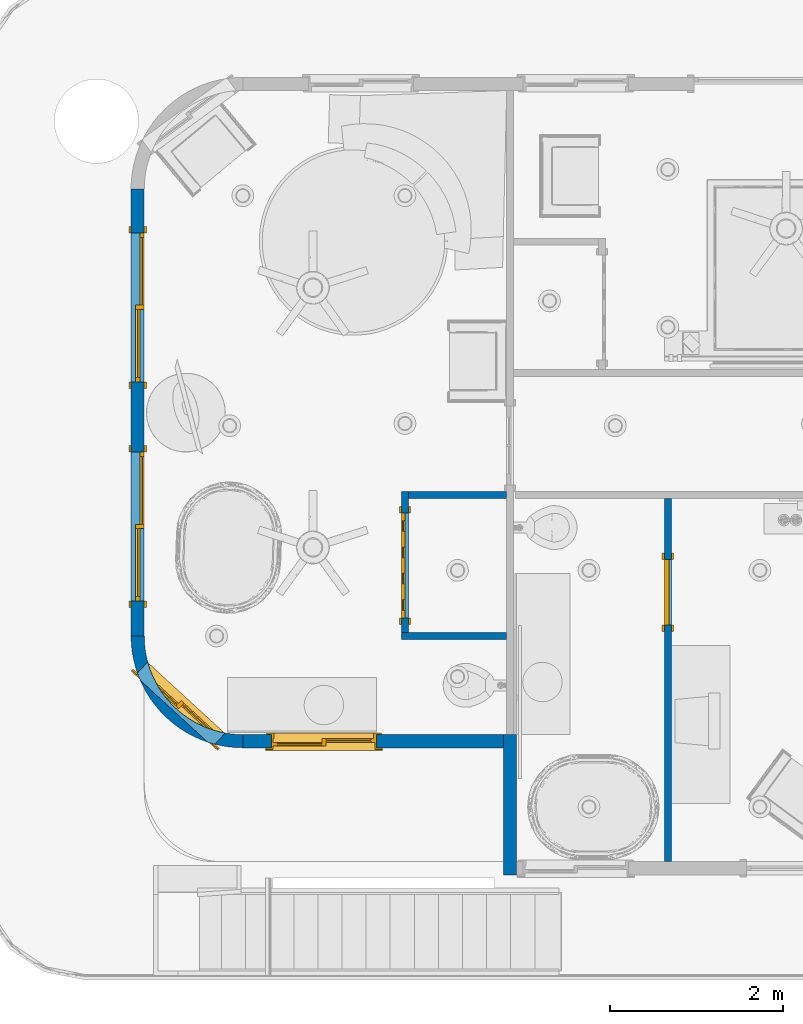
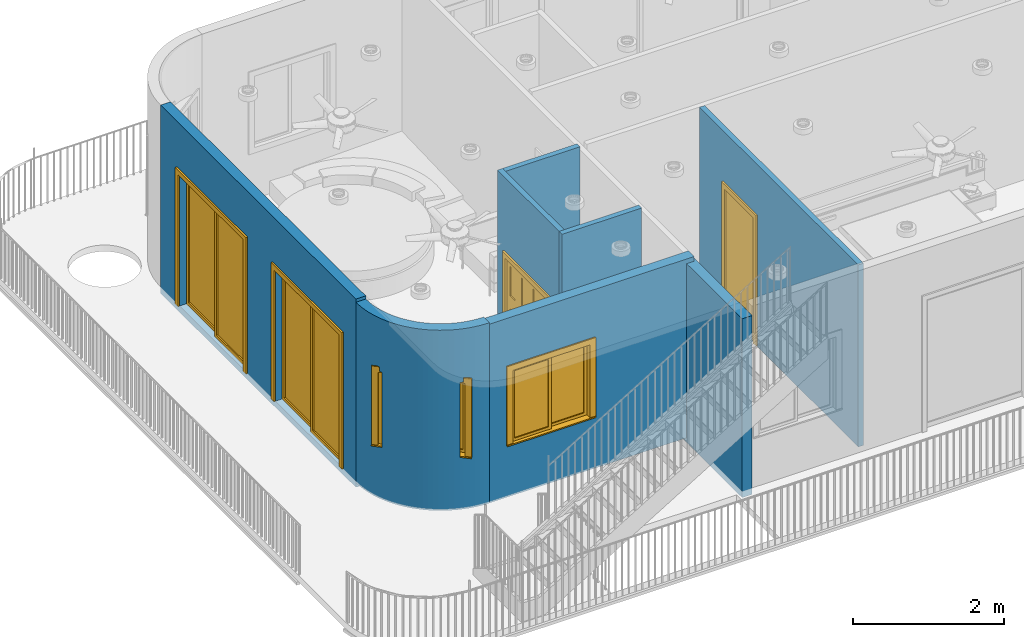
# One storey, part 2 of 28: 8 walls, 4 doors, 2 windows, 6 openings.
"""IFC2X3 building model written with IfcOpenShell, lengths in feet."""

from ifc_helpers import new_model, entity, si_unit, converted_unit, derived_unit, direction, frame, frame_2d, origin, origin_2d_with_axis, place, context, subcontext, project, spatial, polyline, circle_curve, parameter, trimmed, segment, composite_curve, rectangle, outline, extrude, source, transform, mapped, material, material_list, layer, layer_set, layer_usage, type_object, type_shapes, element, fill, save


model = new_model("IFC2X3")

# Units and contexts
model_context = context("Model", 3, precision=0.0001, world=origin(), true_north=direction((6.12303176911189e-17, 1.0)))
body_context = subcontext(model_context, "Body", "Model", "MODEL_VIEW")
ifc_project = project(units=[converted_unit("LENGTHUNIT", "FOOT", entity("IfcRatioMeasure", 0.3048), si_unit("LENGTHUNIT", "METRE"), dimensions=[1, 0, 0, 0, 0, 0, 0]), converted_unit("AREAUNIT", "SQUARE FOOT", entity("IfcRatioMeasure", 0.09290304), si_unit("AREAUNIT", "SQUARE_METRE"), dimensions=[2, 0, 0, 0, 0, 0, 0]), converted_unit("VOLUMEUNIT", "CUBIC FOOT", entity("IfcRatioMeasure", 0.028316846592), si_unit("VOLUMEUNIT", "CUBIC_METRE"), dimensions=[3, 0, 0, 0, 0, 0, 0]), converted_unit("PLANEANGLEUNIT", "DEGREE", entity("IfcRatioMeasure", 0.0174532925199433), si_unit("PLANEANGLEUNIT", "RADIAN"), dimensions=[0, 0, 0, 0, 0, 0, 0]), si_unit("MASSUNIT", "GRAM", prefix="KILO"), derived_unit("MASSDENSITYUNIT", [(si_unit("MASSUNIT", "GRAM", prefix="KILO"), 1), (si_unit("LENGTHUNIT", "METRE"), -3)]), si_unit("TIMEUNIT", "SECOND"), si_unit("FREQUENCYUNIT", "HERTZ"), si_unit("THERMODYNAMICTEMPERATUREUNIT", "DEGREE_CELSIUS"), derived_unit("THERMALTRANSMITTANCEUNIT", [(si_unit("MASSUNIT", "GRAM", prefix="KILO"), 1), (si_unit("THERMODYNAMICTEMPERATUREUNIT", "KELVIN"), -1), (si_unit("TIMEUNIT", "SECOND"), -3)]), derived_unit("VOLUMETRICFLOWRATEUNIT", [(si_unit("LENGTHUNIT", "METRE"), 3), (si_unit("TIMEUNIT", "SECOND"), -1)]), si_unit("ELECTRICCURRENTUNIT", "AMPERE"), si_unit("ELECTRICVOLTAGEUNIT", "VOLT"), si_unit("POWERUNIT", "WATT"), si_unit("FORCEUNIT", "NEWTON"), si_unit("ILLUMINANCEUNIT", "LUX"), si_unit("LUMINOUSFLUXUNIT", "LUMEN"), si_unit("LUMINOUSINTENSITYUNIT", "CANDELA"), derived_unit("USERDEFINED", [(si_unit("MASSUNIT", "GRAM", prefix="KILO"), -1), (si_unit("LENGTHUNIT", "METRE"), -2), (si_unit("TIMEUNIT", "SECOND"), 3), (si_unit("LUMINOUSFLUXUNIT", "LUMEN"), 1)]), derived_unit("LINEARVELOCITYUNIT", [(si_unit("LENGTHUNIT", "METRE"), 1), (si_unit("TIMEUNIT", "SECOND"), -1)]), si_unit("PRESSUREUNIT", "PASCAL"), derived_unit("USERDEFINED", [(si_unit("LENGTHUNIT", "METRE"), -2), (si_unit("MASSUNIT", "GRAM", prefix="KILO"), 1), (si_unit("TIMEUNIT", "SECOND"), -2)])], contexts=[model_context])

# Site, building, storey
site_placement = place(None, origin())
site = spatial("IfcSite", under=ifc_project, at=site_placement, Name="表面", CompositionType="ELEMENT")
building_placement = place(site_placement, origin())
building = spatial("IfcBuilding", under=site, at=building_placement, CompositionType="ELEMENT")
storey_placement = place(building_placement, frame((0.0, 0.0, 10.0)))
storey = spatial("IfcBuildingStorey", under=building, at=storey_placement, Name="Level 2", CompositionType="ELEMENT", Elevation=9.99999999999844)

# Wall
ifc_material_1 = material(Name="Paint")
ifc_layer_1 = layer(ifc_material_1, 0.333333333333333)
ifc_material_2 = material(Name="Paints and Coatings")
ifc_layer_2 = layer(ifc_material_2, 0.166666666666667)
ifc_layer_set_1 = layer_set([ifc_layer_1, ifc_layer_2], Name="基本墙:Generic - 4\" Brick")
ifc_layer_usage_1 = layer_usage(ifc_layer_set_1, "AXIS2", "NEGATIVE", 0.25)
wall_type_1 = type_object("IfcWallType", Name="基本墙:Generic - 4\" Brick", PredefinedType="STANDARD", material=ifc_layer_set_1)
wall_1_placement = place(storey_placement, frame((-19.8682464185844, -8.06760630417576, 0.0), z_axis=(0.0, 0.0, 1.0), x_axis=(0.0, -1.0, 0.0)))
element("IfcWallStandardCase", 1, at=wall_1_placement, inside=storey, type_object=wall_type_1, material=ifc_layer_usage_1, Name="基本墙:Generic - 4\" Brick", ObjectType="基本墙:Generic - 4\" Brick:257", context=body_context, shape_type="SweptSolid", body=[
    extrude(rectangle(XDim=5.33333333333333, YDim=0.5, at=frame_2d((2.66666666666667, 3.60822483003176e-16), x_axis=(-1.0, 0.0))), origin(), (0.0, 0.0, 1.0), 9.5),
])

# Wall, opening, window
ifc_layer_usage_2 = layer_usage(ifc_layer_set_1, "AXIS2", "NEGATIVE", 0.25)
wall_2_placement = place(storey_placement, frame((-30.0349130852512, -8.31760630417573, 0.250000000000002)))
wall_2 = element("IfcWallStandardCase", 2, at=wall_2_placement, inside=storey, type_object=wall_type_1, material=ifc_layer_usage_2, Name="基本墙:Generic - 4\" Brick", ObjectType="基本墙:Generic - 4\" Brick:257", context=body_context, shape_type="SweptSolid", body=[
    extrude(rectangle(XDim=10.2968750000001, YDim=0.5, at=frame_2d((5.14843750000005, -9.71445146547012e-17), x_axis=(-1.0, 0.0))), origin(), (0.0, 0.0, 1.0), 9.5),
])
opening_1_placement = place(wall_2_placement, frame((5.08333333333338, 0.249999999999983, 2.74999999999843)))
opening_1 = element("IfcOpeningElement", 3, at=opening_1_placement, cuts=wall_2, Name="Slider with Trim:48\" x 48\":1", ObjectType="Opening", context=body_context, shape_type="SweptSolid", body=[
    extrude(rectangle(XDim=3.99999999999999, YDim=3.99999999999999, at=frame_2d((2.0, 2.0), x_axis=(-1.0, 0.0))), frame((0.0, 0.0, 0.0), z_axis=(0.0, -1.0, 0.0), x_axis=(0.0, 0.0, 1.0)), (0.0, 0.0, 1.0), 0.5),
])
ifc_material_3 = material(Name="Glass")
ifc_material_4 = material(Name="Sash")
ifc_material_5 = material(Name="Trim")
ifc_material_list_1 = material_list([ifc_material_3, ifc_material_4, ifc_material_5])
ifc_material_list_2 = material_list([ifc_material_3, ifc_material_4, ifc_material_5])
window_style = type_object("IfcWindowStyle", Name="48\" x 48\"", ConstructionType="NOTDEFINED", OperationType="NOTDEFINED", ParameterTakesPrecedence=False, Sizeable=False, material=ifc_material_list_2)
shared_shape_1 = source(origin(), body_context, "Body", "SweptSolid", [
    extrude(rectangle(XDim=0.0416666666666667, YDim=1.71875000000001, at=origin_2d_with_axis()), frame((1.06770833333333, 0.21875, 0.208333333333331), z_axis=(0.0, 0.0, 1.0), x_axis=(0.0, -1.0, 0.0)), (0.0, 0.0, 1.0), 3.58333333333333),
    extrude(outline(polyline([(-1.00520833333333, -1.9375), (1.00520833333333, -1.9375), (1.00520833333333, 1.9375), (-1.00520833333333, 1.9375), (-1.00520833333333, -1.9375)]), holes=[polyline([(-0.859374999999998, -1.79166666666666), (-0.859374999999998, 1.79166666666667), (0.859374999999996, 1.79166666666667), (0.859374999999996, -1.79166666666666), (-0.859374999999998, -1.79166666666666)])]), frame((1.06770833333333, 0.145833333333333, 2.0), z_axis=(0.0, 1.0, 0.0), x_axis=(1.0, 0.0, 0.0)), (0.0, 0.0, 1.0), 0.145833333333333),
    extrude(rectangle(XDim=0.104166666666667, YDim=4.45833333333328, at=frame_2d((-2.77555756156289e-17, 0.0), x_axis=(1.0, 0.0))), frame((2.0, 0.552083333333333, 0.0), z_axis=(0.0, 0.0, 1.0), x_axis=(0.0, -1.0, 0.0)), (0.0, 0.0, 1.0), 0.0624999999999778),
    extrude(outline(polyline([(-1.86458333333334, 1.9375), (2.01041666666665, 1.9375), (2.01041666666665, 2.22916666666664), (-2.15624999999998, 2.22916666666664), (-2.15624999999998, -2.22916666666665), (2.01041666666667, -2.22916666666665), (2.01041666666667, -1.93749999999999), (-1.86458333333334, -1.93749999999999), (-1.86458333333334, 1.9375)])), frame((2.0, 0.5, 2.07291666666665), z_axis=(0.0, 1.0, 0.0), x_axis=(0.0, 0.0, -1.0)), (0.0, 0.0, 1.0), 0.0625),
    extrude(outline(polyline([(-2.18749999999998, -2.18749999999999), (2.18749999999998, -2.18749999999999), (2.18749999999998, 2.18749999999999), (-2.18749999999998, 2.18749999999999), (-2.18749999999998, -2.18749999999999)]), holes=[polyline([(-1.89583333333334, -1.89583333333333), (-1.89583333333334, 1.89583333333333), (1.89583333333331, 1.89583333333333), (1.89583333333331, -1.89583333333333), (-1.89583333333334, -1.89583333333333)])]), frame((2.0, -0.0625, 2.0), z_axis=(0.0, 1.0, 0.0), x_axis=(0.0, 0.0, -1.0)), (0.0, 0.0, 1.0), 0.0625),
    extrude(rectangle(XDim=0.0416666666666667, YDim=1.71874999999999, at=frame_2d((1.38777878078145e-17, 0.0), x_axis=(1.0, 0.0))), frame((2.93229166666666, 0.364583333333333, 0.208333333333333), z_axis=(0.0, 0.0, 1.0), x_axis=(0.0, 1.0, 0.0)), (0.0, 0.0, 1.0), 3.58333333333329),
    extrude(outline(polyline([(-1.00520833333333, -1.93749999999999), (1.00520833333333, -1.93749999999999), (1.00520833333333, 1.93749999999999), (-1.00520833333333, 1.93749999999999), (-1.00520833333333, -1.93749999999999)]), holes=[polyline([(-0.859374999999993, -1.79166666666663), (-0.859374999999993, 1.79166666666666), (0.859374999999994, 1.79166666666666), (0.859374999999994, -1.79166666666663), (-0.859374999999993, -1.79166666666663)])]), frame((2.93229166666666, 0.291666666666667, 2.0), z_axis=(0.0, 1.0, 0.0), x_axis=(1.0, 0.0, 0.0)), (0.0, 0.0, 1.0), 0.145833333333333),
    extrude(outline(polyline([(-2.0, -2.0), (2.0, -2.0), (2.0, 2.0), (-2.0, 2.0), (-2.0, -2.0)]), holes=[polyline([(-1.89583333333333, -1.89583333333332), (-1.89583333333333, 1.89583333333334), (1.89583333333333, 1.89583333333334), (1.89583333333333, -1.89583333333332), (-1.89583333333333, -1.89583333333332)])]), frame((2.0, 0.0, 2.0), z_axis=(0.0, 1.0, 0.0), x_axis=(1.0, 0.0, 0.0)), (0.0, 0.0, 1.0), 0.145833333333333),
    extrude(outline(polyline([(-2.0, -2.0), (2.0, -2.0), (2.0, 2.0), (-2.0, 2.0), (-2.0, -2.0)]), holes=[polyline([(-1.9375, -1.93749999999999), (-1.9375, 1.9375), (1.9375, 1.9375), (1.9375, -1.93749999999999), (-1.9375, -1.93749999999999)])]), frame((2.0, 0.145833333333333, 2.0), z_axis=(0.0, 1.0, 0.0), x_axis=(0.0, 0.0, -1.0)), (0.0, 0.0, 1.0), 0.354166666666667),
])
type_shapes(window_style, [shared_shape_1])
window_1_placement = place(opening_1_placement, frame((0.0, 0.0, 0.0), z_axis=(0.0, 0.0, 1.0), x_axis=(-1.0, 0.0, 0.0)))
window_1 = element("IfcWindow", 4, at=window_1_placement, inside=storey, type_object=window_style, material=ifc_material_list_1, Name="Slider with Trim:48\" x 48\"", ObjectType="48\" x 48\"", OverallHeight=3.99999999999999, OverallWidth=3.99999999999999, context=body_context, shape_type="MappedRepresentation", body=[
    mapped(shared_shape_1, transform((0.0, 0.0, 0.0), scale=1.0)),
])
fill(opening_1, window_1)

# Wall, openings, doors
ifc_layer_usage_3 = layer_usage(ifc_layer_set_1, "AXIS2", "NEGATIVE", 0.25)
wall_3_placement = place(storey_placement, frame((-34.0349130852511, -4.31760630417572, 0.0), z_axis=(0.0, 0.0, 1.0), x_axis=(0.0, 1.0, 0.0)))
wall_3 = element("IfcWallStandardCase", 5, at=wall_3_placement, inside=storey, type_object=wall_type_1, material=ifc_layer_usage_3, Name="基本墙:Generic - 4\" Brick", ObjectType="基本墙:Generic - 4\" Brick:257", context=body_context, shape_type="SweptSolid", body=[
    extrude(rectangle(XDim=17.0, YDim=0.5, at=frame_2d((8.49999999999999, 2.77555756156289e-16), x_axis=(-1.0, 0.0))), origin(), (0.0, 0.0, 1.0), 9.99999999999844),
])
opening_2_placement = place(wall_3_placement, frame((15.3333333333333, 0.249999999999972, 0.333333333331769)))
opening_2 = element("IfcOpeningElement", 6, at=opening_2_placement, cuts=wall_3, Name="Sliding-2 panel:68\" x 84\":1", ObjectType="Opening", context=body_context, shape_type="SweptSolid", body=[
    extrude(rectangle(XDim=7.0, YDim=5.66666666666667, at=frame_2d((3.5, 2.83333333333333), x_axis=(-1.0, 0.0))), frame((0.0, 0.0, 0.0), z_axis=(0.0, -1.0, 0.0), x_axis=(0.0, 0.0, 1.0)), (0.0, 0.0, 1.0), 0.5),
])
opening_3_placement = place(wall_3_placement, frame((7.0, 0.249999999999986, 0.333333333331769)))
opening_3 = element("IfcOpeningElement", 7, at=opening_3_placement, cuts=wall_3, Name="Sliding-2 panel:68\" x 84\":1", ObjectType="Opening", context=body_context, shape_type="SweptSolid", body=[
    extrude(rectangle(XDim=7.0, YDim=5.66666666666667, at=frame_2d((3.5, 2.83333333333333), x_axis=(-1.0, 0.0))), frame((0.0, 0.0, 0.0), z_axis=(0.0, -1.0, 0.0), x_axis=(0.0, 0.0, 1.0)), (0.0, 0.0, 1.0), 0.5),
])
ifc_material_6 = material(Name="Door - Panel")
ifc_material_7 = material(Name="Door - Frame")
ifc_material_list_3 = material_list([ifc_material_3, ifc_material_6, ifc_material_7])
ifc_material_list_4 = material_list([ifc_material_3, ifc_material_6, ifc_material_7])
door_style_1 = type_object("IfcDoorStyle", Name="68\" x 84\"", ConstructionType="NOTDEFINED", OperationType="NOTDEFINED", ParameterTakesPrecedence=False, Sizeable=False, material=ifc_material_list_4)
shared_shape_2 = source(origin(), body_context, "Body", "SweptSolid", [
    extrude(rectangle(XDim=0.0208333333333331, YDim=2.5833333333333, at=origin_2d_with_axis()), frame((4.20833333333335, 0.250000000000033, 0.166666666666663), z_axis=(0.0, 0.0, 1.0), x_axis=(0.0, -1.0, 0.0)), (0.0, 0.0, 1.0), 6.66666666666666),
    extrude(outline(polyline([(-1.45833333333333, -3.5), (1.45833333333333, -3.5), (1.45833333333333, 3.5), (-1.45833333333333, 3.5), (-1.45833333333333, -3.5)]), holes=[polyline([(-1.29166666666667, -3.33333333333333), (-1.29166666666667, 3.33333333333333), (1.29166666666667, 3.33333333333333), (1.29166666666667, -3.33333333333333), (-1.29166666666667, -3.33333333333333)])]), frame((4.20833333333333, 0.16666666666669, 3.5), z_axis=(0.0, 1.0, 0.0), x_axis=(1.0, 0.0, 0.0)), (0.0, 0.0, 1.0), 0.166666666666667),
    extrude(rectangle(XDim=0.0208333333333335, YDim=2.58333333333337, at=frame_2d((5.55111512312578e-17, 0.0), x_axis=(1.0, 0.0))), frame((1.45833333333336, 0.416666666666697, 0.166666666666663), z_axis=(0.0, 0.0, 1.0), x_axis=(0.0, -1.0, 0.0)), (0.0, 0.0, 1.0), 6.66666666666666),
    extrude(outline(polyline([(-3.5, -1.45833333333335), (3.5, -1.45833333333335), (3.5, 1.45833333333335), (-3.5, 1.45833333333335), (-3.5, -1.45833333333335)]), holes=[polyline([(-3.33333333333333, -1.29166666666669), (-3.33333333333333, 1.29166666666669), (3.33333333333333, 1.29166666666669), (3.33333333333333, -1.29166666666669), (-3.33333333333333, -1.29166666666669)])]), frame((1.45833333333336, 0.333333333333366, 3.5), z_axis=(0.0, 1.0, 0.0), x_axis=(0.0, 0.0, -1.0)), (0.0, 0.0, 1.0), 0.166666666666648),
    extrude(outline(polyline([(-3.5625, -3.08333333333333), (3.6875, -3.08333333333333), (3.6875, 3.08333333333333), (-3.5625, 3.08333333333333), (-3.5625, 2.83333333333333), (3.4375, 2.83333333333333), (3.4375, -2.83333333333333), (-3.5625, -2.83333333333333), (-3.5625, -3.08333333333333)])), frame((2.83333333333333, -0.0833333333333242, 3.5625), z_axis=(0.0, 1.0, 0.0), x_axis=(0.0, 0.0, 1.0)), (0.0, 0.0, 1.0), 0.0833333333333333),
    extrude(outline(polyline([(-3.08333333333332, -3.56250000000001), (-2.83333333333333, -3.56250000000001), (-2.83333333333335, 3.43749999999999), (2.83333333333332, 3.43750000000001), (2.83333333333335, -3.56249999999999), (3.08333333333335, -3.56249999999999), (3.08333333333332, 3.68750000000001), (-3.08333333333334, 3.68749999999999), (-3.08333333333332, -3.56250000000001)])), frame((2.83333333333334, 0.500000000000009, 3.5625), z_axis=(0.0, 1.0, 0.0), x_axis=(-1.0, 0.0, 0.0)), (0.0, 0.0, 1.0), 0.0833333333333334),
])
type_shapes(door_style_1, [shared_shape_2])
door_1_placement = place(opening_3_placement, frame((0.0, 0.0, 0.0), z_axis=(0.0, 0.0, 1.0), x_axis=(-1.0, 0.0, 0.0)))
door_1 = element("IfcDoor", 8, at=door_1_placement, inside=storey, type_object=door_style_1, material=ifc_material_list_3, Name="Sliding-2 panel:68\" x 84\"", ObjectType="68\" x 84\"", OverallHeight=7.0, OverallWidth=5.66666666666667, context=body_context, shape_type="MappedRepresentation", body=[
    mapped(shared_shape_2, transform((0.0, 0.0, 0.0), scale=1.0)),
])
fill(opening_3, door_1)
ifc_material_list_5 = material_list([ifc_material_3, ifc_material_6, ifc_material_7])
door_2_placement = place(opening_2_placement, frame((0.0, 0.0, 0.0), z_axis=(0.0, 0.0, 1.0), x_axis=(-1.0, 0.0, 0.0)))
door_2 = element("IfcDoor", 9, at=door_2_placement, inside=storey, type_object=door_style_1, material=ifc_material_list_5, Name="Sliding-2 panel:68\" x 84\"", ObjectType="68\" x 84\"", OverallHeight=7.0, OverallWidth=5.66666666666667, context=body_context, shape_type="MappedRepresentation", body=[
    mapped(shared_shape_2, transform((0.0, 0.0, 0.0), scale=1.0)),
])
fill(opening_2, door_2)

# Wall, opening, window
ifc_layer_usage_4 = layer_usage(ifc_layer_set_1, "AXIS2", "NEGATIVE", 0.25)
wall_4_placement = place(storey_placement, frame((-34.0349130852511, -4.31760630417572, 0.250000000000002)))
wall_4 = element("IfcWallStandardCase", 10, at=wall_4_placement, inside=storey, type_object=wall_type_1, material=ifc_layer_usage_4, Name="基本墙:Generic - 4\" Brick", ObjectType="基本墙:Generic - 4\" Brick:257", context=body_context, shape_type="SweptSolid", body=[
    extrude(outline(composite_curve([segment(trimmed(circle_curve(frame_2d((4.0, 0.0), x_axis=(1.0, 0.0)), 3.75), [parameter(180.0)], [parameter(270.0)], True, "PARAMETER"), False, "CONTINUOUS"), segment(polyline([(0.25, 0.0), (-0.25, 0.0)]), True, "CONTINUOUS"), segment(trimmed(circle_curve(frame_2d((4.0, 0.0), x_axis=(1.0, 0.0)), 4.25), [parameter(180.0)], [parameter(270.0)], True, "PARAMETER"), True, "CONTINUOUS"), segment(polyline([(4.0, -4.25000000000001), (4.0, -3.75000000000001)]), True, "CONTINUOUS")], self_intersect=False)), origin(), (0.0, 0.0, 1.0), 9.58333333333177),
])
opening_4_placement = place(wall_4_placement, frame((5.98065322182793, -0.799695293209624, 2.74999999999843)))
opening_4 = element("IfcOpeningElement", 11, at=opening_4_placement, cuts=wall_4, Name="Slider with Trim:48\" x 48\":1", ObjectType="Opening", context=body_context, shape_type="SweptSolid", body=[
    extrude(rectangle(XDim=3.99999999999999, YDim=3.99999999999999, at=frame_2d((2.0, 2.0), x_axis=(-1.0, 0.0))), frame((0.0, 0.0, 0.0), z_axis=(-0.676138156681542, -0.736774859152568, 0.0), x_axis=(0.0, 0.0, 1.0)), (0.0, 0.0, 1.0), 4.62701648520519),
])
ifc_material_list_6 = material_list([ifc_material_3, ifc_material_4, ifc_material_5])
window_2_placement = place(opening_4_placement, frame((-2.7045525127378, -2.94709931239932, 0.0), z_axis=(0.0, 0.0, 1.0), x_axis=(-0.736774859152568, 0.676138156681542, 0.0)))
window_2 = element("IfcWindow", 12, at=window_2_placement, inside=storey, type_object=window_style, material=ifc_material_list_6, Name="Slider with Trim:48\" x 48\"", ObjectType="48\" x 48\"", OverallHeight=3.99999999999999, OverallWidth=4.0, context=body_context, shape_type="MappedRepresentation", body=[
    mapped(shared_shape_1, transform((0.0, 0.0, 0.0), scale=1.0)),
])
fill(opening_4, window_2)

# Wall
ifc_material_8 = material(Name="Gypsum Wall Board")
ifc_layer_3 = layer(ifc_material_8, 0.0416666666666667)
ifc_layer_4 = layer(ifc_material_8, 0.0208333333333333)
ifc_material_9 = material(Name="Metal - Stud Layer")
ifc_layer_5 = layer(ifc_material_9, 0.135416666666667)
ifc_layer_6 = layer(ifc_material_8, 0.0208333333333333)
ifc_layer_7 = layer(ifc_material_8, 0.0416666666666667)
ifc_layer_set_2 = layer_set([ifc_layer_3, ifc_layer_4, ifc_layer_5, ifc_layer_6, ifc_layer_7], Name="基本墙:Interior - 3 1/8\" Partition (1-hr)")
ifc_layer_usage_5 = layer_usage(ifc_layer_set_2, "AXIS2", "NEGATIVE", 0.130208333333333)
wall_type_2 = type_object("IfcWallType", Name="基本墙:Interior - 3 1/8\" Partition (1-hr)", PredefinedType="STANDARD", material=ifc_layer_set_2)
wall_5_placement = place(storey_placement, frame((-19.9984547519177, -4.31760630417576, 0.250000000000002), z_axis=(0.0, 0.0, 1.0), x_axis=(-1.0, 0.0, 0.0)))
element("IfcWallStandardCase", 13, at=wall_5_placement, inside=storey, type_object=wall_type_2, material=ifc_layer_usage_5, Name="基本墙:Interior - 3 1/8\" Partition (1-hr)", ObjectType="基本墙:Interior - 3 1/8\" Partition (1-hr):258", context=body_context, shape_type="SweptSolid", body=[
    extrude(rectangle(XDim=4.0, YDim=0.260416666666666, at=frame_2d((2.0, -1.66533453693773e-16), x_axis=(-1.0, 0.0))), origin(), (0.0, 0.0, 1.0), 9.66666666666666),
])

# Wall, opening, door
ifc_layer_usage_6 = layer_usage(ifc_layer_set_2, "AXIS2", "NEGATIVE", 0.130208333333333)
wall_6_placement = place(storey_placement, frame((-13.8682464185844, -12.9009396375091, 0.250000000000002), z_axis=(0.0, 0.0, 1.0), x_axis=(0.0, 1.0, 0.0)))
wall_6 = element("IfcWallStandardCase", 14, at=wall_6_placement, inside=storey, type_object=wall_type_2, material=ifc_layer_usage_6, Name="基本墙:Interior - 3 1/8\" Partition (1-hr)", ObjectType="基本墙:Interior - 3 1/8\" Partition (1-hr):258", context=body_context, shape_type="SweptSolid", body=[
    extrude(rectangle(XDim=13.8229166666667, YDim=0.260416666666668, at=frame_2d((6.91145833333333, -2.77555756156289e-17), x_axis=(-1.0, 0.0))), origin(), (0.0, 0.0, 1.0), 9.66666666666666),
])
opening_5_placement = place(wall_6_placement, frame((9.0, -0.130208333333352, 0.0833333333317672)))
opening_5 = element("IfcOpeningElement", 15, at=opening_5_placement, cuts=wall_6, Name="Single-Flush:30\" x 80\":1", ObjectType="Opening", context=body_context, shape_type="SweptSolid", body=[
    extrude(rectangle(XDim=2.5, YDim=6.66666666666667, at=frame_2d((3.33333333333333, 1.25), x_axis=(0.0, 1.0))), frame((0.0, 0.0, 0.0), z_axis=(0.0, 1.0, 0.0), x_axis=(0.0, 0.0, 1.0)), (0.0, 0.0, 1.0), 0.260416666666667),
])
ifc_material_list_7 = material_list([ifc_material_7, ifc_material_6])
ifc_material_list_8 = material_list([ifc_material_7, ifc_material_6])
door_style_2 = type_object("IfcDoorStyle", Name="30\" x 80\"", ConstructionType="NOTDEFINED", OperationType="SINGLE_SWING_RIGHT", ParameterTakesPrecedence=False, Sizeable=False, material=ifc_material_list_8)
shared_shape_3 = source(origin(), body_context, "Body", "SweptSolid", [
    extrude(outline(polyline([(-1.5, -3.52083333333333), (1.5, -3.52083333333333), (1.5, 3.39583333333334), (1.25, 3.39583333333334), (1.25, -3.27083333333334), (-1.25, -3.27083333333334), (-1.25, 3.39583333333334), (-1.5, 3.39583333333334), (-1.5, -3.52083333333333)])), frame((1.25, 0.260416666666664, 3.39583333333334), z_axis=(0.0, 1.0, 0.0), x_axis=(1.0, 0.0, 0.0)), (0.0, 0.0, 1.0), 0.0833333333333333),
    extrude(outline(polyline([(-3.52083333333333, -1.49999999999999), (3.39583333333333, -1.49999999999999), (3.39583333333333, -1.25000000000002), (-3.27083333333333, -1.25000000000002), (-3.27083333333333, 1.25000000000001), (3.39583333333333, 1.25000000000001), (3.39583333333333, 1.50000000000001), (-3.52083333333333, 1.50000000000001), (-3.52083333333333, -1.49999999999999)])), frame((1.25000000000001, -0.0833333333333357, 3.39583333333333), z_axis=(0.0, 1.0, 0.0), x_axis=(0.0, 0.0, -1.0)), (0.0, 0.0, 1.0), 0.0833333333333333),
    extrude(rectangle(XDim=0.166666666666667, YDim=2.5, at=origin_2d_with_axis()), frame((1.25, 0.177083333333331, 0.0), z_axis=(0.0, 0.0, 1.0), x_axis=(0.0, 1.0, 0.0)), (0.0, 0.0, 1.0), 6.66666666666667),
])
type_shapes(door_style_2, [shared_shape_3])
door_3_placement = place(opening_5_placement, origin())
door_3 = element("IfcDoor", 16, at=door_3_placement, inside=storey, type_object=door_style_2, material=ifc_material_list_7, Name="Single-Flush:30\" x 80\"", ObjectType="30\" x 80\"", OverallHeight=6.66666666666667, OverallWidth=2.5, context=body_context, shape_type="MappedRepresentation", body=[
    mapped(shared_shape_3, transform((0.0, 0.0, 0.0), scale=1.0)),
])
fill(opening_5, door_3)

ifc_layer_usage_7 = layer_usage(ifc_layer_set_2, "AXIS2", "NEGATIVE", 0.130208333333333)
wall_7_placement = place(storey_placement, frame((-23.8682464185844, -4.18739797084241, 0.250000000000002), z_axis=(0.0, 0.0, 1.0), x_axis=(0.0, 1.0, 0.0)))
wall_7 = element("IfcWallStandardCase", 17, at=wall_7_placement, inside=storey, type_object=wall_type_2, material=ifc_layer_usage_7, Name="基本墙:Interior - 3 1/8\" Partition (1-hr)", ObjectType="基本墙:Interior - 3 1/8\" Partition (1-hr):258", context=body_context, shape_type="SweptSolid", body=[
    extrude(rectangle(XDim=5.36979166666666, YDim=0.260416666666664, at=frame_2d((2.68489583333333, 8.32667268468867e-17), x_axis=(-1.0, 0.0))), origin(), (0.0, 0.0, 1.0), 9.66666666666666),
])
opening_6_placement = place(wall_7_placement, frame((0.55468749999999, -0.130208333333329, 0.499999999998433)))
opening_6 = element("IfcOpeningElement", 18, at=opening_6_placement, cuts=wall_7, Name="Bifold-4 Panel:48\" x 84\":1", ObjectType="Opening", context=body_context, shape_type="SweptSolid", body=[
    extrude(rectangle(XDim=5.0, YDim=4.0, at=frame_2d((2.5, 2.0), x_axis=(1.0, 0.0))), frame((0.0, 0.0, 0.0), z_axis=(0.0, 1.0, 0.0), x_axis=(0.0, 0.0, 1.0)), (0.0, 0.0, 1.0), 0.260416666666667),
])
ifc_material_list_9 = material_list([ifc_material_6, ifc_material_7])
ifc_material_list_10 = material_list([ifc_material_6, ifc_material_7])
door_style_3 = type_object("IfcDoorStyle", Name="48\" x 84\"", ConstructionType="NOTDEFINED", OperationType="NOTDEFINED", ParameterTakesPrecedence=False, Sizeable=False, material=ifc_material_list_10)
shared_shape_4 = source(origin(), body_context, "Body", "SweptSolid", [
    extrude(rectangle(XDim=0.0416666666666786, YDim=0.416666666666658, at=frame_2d((3.46944695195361e-18, -1.11022302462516e-16), x_axis=(1.0, 0.0))), frame((0.499999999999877, 0.197916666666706, 3.16666666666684), z_axis=(0.0, 0.0, 1.0), x_axis=(0.0, -1.0, 0.0)), (0.0, 0.0, 1.0), 1.56250000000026),
    extrude(rectangle(XDim=0.0416666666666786, YDim=0.416666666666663, at=frame_2d((6.93889390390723e-18, -1.11022302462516e-16), x_axis=(1.0, 0.0))), frame((3.49999999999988, 0.197916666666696, 3.16666666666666), z_axis=(0.0, 0.0, 1.0), x_axis=(0.0, -1.0, 0.0)), (0.0, 0.0, 1.0), 1.56250000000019),
    extrude(rectangle(XDim=0.0416666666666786, YDim=0.416666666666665, at=frame_2d((6.93889390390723e-18, 0.0), x_axis=(1.0, 0.0))), frame((3.49999999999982, 0.197916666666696, 0.604166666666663), z_axis=(0.0, 0.0, 1.0), x_axis=(0.0, -1.0, 0.0)), (0.0, 0.0, 1.0), 1.85416666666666),
    extrude(rectangle(XDim=0.0416666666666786, YDim=0.416666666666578, at=frame_2d((6.93889390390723e-18, 0.0), x_axis=(1.0, 0.0))), frame((2.49999999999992, 0.197916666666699, 3.16666666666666), z_axis=(0.0, 0.0, 1.0), x_axis=(0.0, -1.0, 0.0)), (0.0, 0.0, 1.0), 1.5625000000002),
    extrude(rectangle(XDim=0.0416666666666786, YDim=0.41666666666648, at=frame_2d((6.93889390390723e-18, 0.0), x_axis=(1.0, 0.0))), frame((2.49999999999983, 0.197916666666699, 0.604166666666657), z_axis=(0.0, 0.0, 1.0), x_axis=(0.0, -1.0, 0.0)), (0.0, 0.0, 1.0), 1.85416666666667),
    extrude(rectangle(XDim=0.0416666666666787, YDim=0.416666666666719, at=frame_2d((1.04083408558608e-17, 0.0), x_axis=(1.0, 0.0))), frame((1.49999999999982, 0.197916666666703, 0.604166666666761), z_axis=(0.0, 0.0, 1.0), x_axis=(0.0, -1.0, 0.0)), (0.0, 0.0, 1.0), 1.85416666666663),
    extrude(rectangle(XDim=0.0416666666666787, YDim=0.416666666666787, at=frame_2d((1.04083408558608e-17, 0.0), x_axis=(1.0, 0.0))), frame((1.49999999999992, 0.197916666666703, 3.16666666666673), z_axis=(0.0, 0.0, 1.0), x_axis=(0.0, -1.0, 0.0)), (0.0, 0.0, 1.0), 1.56250000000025),
    extrude(rectangle(XDim=0.0416666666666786, YDim=0.416666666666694, at=frame_2d((3.46944695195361e-18, -1.11022302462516e-16), x_axis=(1.0, 0.0))), frame((0.499999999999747, 0.197916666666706, 0.604166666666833), z_axis=(0.0, 0.0, 1.0), x_axis=(0.0, -1.0, 0.0)), (0.0, 0.0, 1.0), 1.85416666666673),
    extrude(outline(polyline([(-2.24999999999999, -2.5625), (-2.0, -2.5625), (-2.0, 2.4375), (2.0, 2.4375), (2.0, -2.5625), (2.25000000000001, -2.5625), (2.25000000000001, 2.6875), (-2.24999999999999, 2.6875), (-2.24999999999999, -2.5625)])), frame((2.0, -0.0833333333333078, 2.5625), z_axis=(0.0, 1.0, 0.0), x_axis=(-1.0, 0.0, 0.0)), (0.0, 0.0, 1.0), 0.0833333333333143),
    extrude(outline(polyline([(-2.25000000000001, -2.5625), (-2.0, -2.5625), (-2.0, 2.4375), (2.0, 2.4375), (2.0, -2.5625), (2.25, -2.5625), (2.25, 2.6875), (-2.25000000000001, 2.6875), (-2.25000000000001, -2.5625)])), frame((2.0, 0.260416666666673, 2.5625), z_axis=(0.0, 1.0, 0.0), x_axis=(-1.0, 0.0, 0.0)), (0.0, 0.0, 1.0), 0.0833333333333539),
    extrude(outline(polyline([(-2.5, -0.5), (2.5, -0.5), (2.5, 0.5), (-2.5, 0.5), (-2.5, -0.5)]), holes=[polyline([(2.22916666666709, -0.208333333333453), (0.666666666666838, -0.208333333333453), (0.666666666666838, 0.208333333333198), (2.22916666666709, 0.208333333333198), (2.22916666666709, -0.208333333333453)]), polyline([(-0.0416666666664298, -0.208333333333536), (-1.89583333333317, -0.208333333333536), (-1.89583333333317, 0.208333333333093), (-0.0416666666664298, 0.208333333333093), (-0.0416666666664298, -0.208333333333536)])]), frame((0.5, 0.135416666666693, 2.5), z_axis=(0.0, 1.0, 0.0), x_axis=(0.0, 0.0, 1.0)), (0.0, 0.0, 1.0), 0.124999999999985),
    extrude(outline(polyline([(-2.5, -0.499999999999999), (2.5, -0.499999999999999), (2.5, 0.499999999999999), (-2.5, 0.499999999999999), (-2.5, -0.499999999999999)]), holes=[polyline([(2.22916666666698, -0.208333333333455), (0.666666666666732, -0.208333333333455), (0.666666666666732, 0.208333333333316), (2.22916666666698, 0.208333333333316), (2.22916666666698, -0.208333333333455)]), polyline([(-0.0416666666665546, -0.208333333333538), (-1.89583333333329, -0.208333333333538), (-1.89583333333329, 0.208333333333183), (-0.0416666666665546, 0.208333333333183), (-0.0416666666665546, -0.208333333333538)])]), frame((1.5, 0.13541666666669, 2.5), z_axis=(0.0, 1.0, 0.0), x_axis=(0.0, 0.0, 1.0)), (0.0, 0.0, 1.0), 0.124999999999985),
    extrude(outline(polyline([(-2.5, -0.500000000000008), (2.5, -0.500000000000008), (2.5, 0.500000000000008), (-2.5, 0.500000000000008), (-2.5, -0.500000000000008)]), holes=[polyline([(2.22916666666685, -0.20833333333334), (0.666666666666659, -0.20833333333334), (0.666666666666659, 0.208333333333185), (2.22916666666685, 0.208333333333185), (2.22916666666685, -0.20833333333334)]), polyline([(-0.041666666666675, -0.208333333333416), (-1.89583333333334, -0.208333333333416), (-1.89583333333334, 0.208333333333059), (-0.041666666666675, 0.208333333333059), (-0.041666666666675, -0.208333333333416)])]), frame((2.50000000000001, 0.135416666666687, 2.5), z_axis=(0.0, 1.0, 0.0), x_axis=(0.0, 0.0, 1.0)), (0.0, 0.0, 1.0), 0.124999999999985),
    extrude(outline(polyline([(-2.5, -0.500000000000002), (2.5, -0.500000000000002), (2.5, 0.500000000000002), (-2.5, 0.500000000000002), (-2.5, -0.500000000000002)]), holes=[polyline([(2.22916666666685, -0.208333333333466), (0.666666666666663, -0.208333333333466), (0.666666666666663, 0.208333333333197), (2.22916666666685, 0.208333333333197), (2.22916666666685, -0.208333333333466)]), polyline([(-0.0416666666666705, -0.208333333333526), (-1.89583333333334, -0.208333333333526), (-1.89583333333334, 0.208333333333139), (-0.0416666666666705, 0.208333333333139), (-0.0416666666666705, -0.208333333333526)])]), frame((3.50000000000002, 0.135416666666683, 2.5), z_axis=(0.0, 1.0, 0.0), x_axis=(0.0, 0.0, 1.0)), (0.0, 0.0, 1.0), 0.124999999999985),
])
type_shapes(door_style_3, [shared_shape_4])
door_4_placement = place(opening_6_placement, origin())
door_4 = element("IfcDoor", 19, at=door_4_placement, inside=storey, type_object=door_style_3, material=ifc_material_list_9, Name="Bifold-4 Panel:48\" x 84\"", ObjectType="48\" x 84\"", OverallHeight=5.0, OverallWidth=4.0, context=body_context, shape_type="MappedRepresentation", body=[
    mapped(shared_shape_4, transform((0.0, 0.0, 0.0), scale=1.0)),
])
fill(opening_6, door_4)

# Wall
ifc_layer_usage_8 = layer_usage(ifc_layer_set_2, "AXIS2", "NEGATIVE", 0.130208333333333)
wall_8_placement = place(storey_placement, frame((-23.7380380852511, 1.05218536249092, 0.250000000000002)))
element("IfcWallStandardCase", 20, at=wall_8_placement, inside=storey, type_object=wall_type_2, material=ifc_layer_usage_8, Name="基本墙:Interior - 3 1/8\" Partition (1-hr)", ObjectType="基本墙:Interior - 3 1/8\" Partition (1-hr):258", context=body_context, shape_type="SweptSolid", body=[
    extrude(rectangle(XDim=3.73958333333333, YDim=0.260416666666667, at=frame_2d((1.86979166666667, -2.77555756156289e-17), x_axis=(-1.0, 0.0))), origin(), (0.0, 0.0, 1.0), 9.66666666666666),
])

save(model, "model.ifc")
